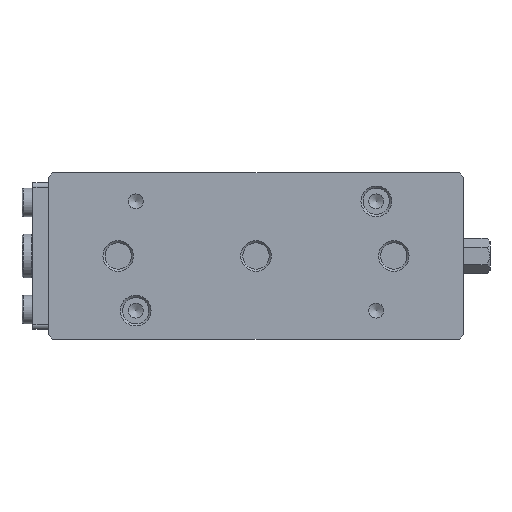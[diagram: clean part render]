
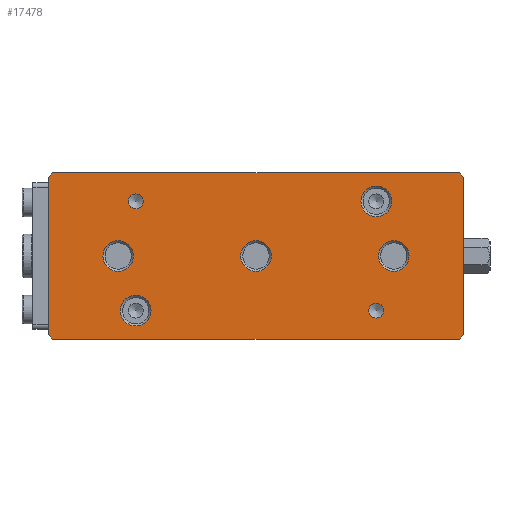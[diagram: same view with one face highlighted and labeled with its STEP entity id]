
A CAD part, front view. The second image highlights one B-rep face of the part: STEP entity #17478.
In plain terms, the highlighted planar face has unit normal (0, -1, 0).
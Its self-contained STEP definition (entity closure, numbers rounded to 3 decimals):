
#171 = EDGE_LOOP ( 'NONE', ( #35013 ) ) ;
#951 = DIRECTION ( 'NONE',  ( 0., -1., 0. ) ) ;
#1692 = VERTEX_POINT ( 'NONE', #37110 ) ;
#1729 = CARTESIAN_POINT ( 'NONE',  ( -63., -56., 0. ) ) ;
#2089 = CARTESIAN_POINT ( 'NONE',  ( 55., -56., -25. ) ) ;
#2680 = FACE_BOUND ( 'NONE', #41619, .T. ) ;
#3194 = CIRCLE ( 'NONE', #33859, 7. ) ;
#3421 = EDGE_LOOP ( 'NONE', ( #22845 ) ) ;
#5680 = LINE ( 'NONE', #46096, #6486 ) ;
#5726 = CARTESIAN_POINT ( 'NONE',  ( -95., -56., -36. ) ) ;
#6486 = VECTOR ( 'NONE', #11966, 1000. ) ;
#6587 = EDGE_CURVE ( 'NONE', #56308, #56308, #22540, .T. ) ;
#7656 = CIRCLE ( 'NONE', #23546, 7. ) ;
#9201 = AXIS2_PLACEMENT_3D ( 'NONE', #46317, #951, #36038 ) ;
#9765 = CARTESIAN_POINT ( 'NONE',  ( 95., -56., 36. ) ) ;
#9805 = DIRECTION ( 'NONE',  ( 0., 0., 1. ) ) ;
#10947 = CARTESIAN_POINT ( 'NONE',  ( 0., -56., 7. ) ) ;
#11937 = VERTEX_POINT ( 'NONE', #56647 ) ;
#11966 = DIRECTION ( 'NONE',  ( 0., 0., -1. ) ) ;
#12442 = EDGE_CURVE ( 'NONE', #53111, #42980, #53365, .T. ) ;
#12942 = DIRECTION ( 'NONE',  ( 0., 1., 0. ) ) ;
#13299 = DIRECTION ( 'NONE',  ( 0.707, 0., -0.707 ) ) ;
#13544 = ORIENTED_EDGE ( 'NONE', *, *, #49935, .T. ) ;
#14845 = ORIENTED_EDGE ( 'NONE', *, *, #33848, .F. ) ;
#15255 = EDGE_CURVE ( 'NONE', #30479, #30479, #33485, .T. ) ;
#15980 = EDGE_LOOP ( 'NONE', ( #13544 ) ) ;
#16726 = CARTESIAN_POINT ( 'NONE',  ( 95., -56., -38. ) ) ;
#16789 = LINE ( 'NONE', #27051, #37728 ) ;
#17185 = DIRECTION ( 'NONE',  ( 0., 0., 1. ) ) ;
#17244 = CARTESIAN_POINT ( 'NONE',  ( 63., -56., 7. ) ) ;
#17478 = ADVANCED_FACE ( 'NONE', ( #45285, #48045, #63277, #44058, #65462, #2680, #58305, #20090 ), #28805, .F. ) ;
#18283 = LINE ( 'NONE', #29513, #19183 ) ;
#18458 = DIRECTION ( 'NONE',  ( 0., 1., 0. ) ) ;
#19183 = VECTOR ( 'NONE', #38482, 1000. ) ;
#20090 = FACE_OUTER_BOUND ( 'NONE', #43711, .T. ) ;
#20212 = CIRCLE ( 'NONE', #35026, 7. ) ;
#21071 = EDGE_CURVE ( 'NONE', #49178, #54367, #31395, .T. ) ;
#21447 = CARTESIAN_POINT ( 'NONE',  ( 0., -56., 0. ) ) ;
#22288 = DIRECTION ( 'NONE',  ( 0., -1., 0. ) ) ;
#22540 = CIRCLE ( 'NONE', #52152, 7. ) ;
#22845 = ORIENTED_EDGE ( 'NONE', *, *, #38209, .T. ) ;
#22980 = ORIENTED_EDGE ( 'NONE', *, *, #6587, .T. ) ;
#23286 = VERTEX_POINT ( 'NONE', #9765 ) ;
#23406 = EDGE_CURVE ( 'NONE', #49178, #42980, #45859, .T. ) ;
#23546 = AXIS2_PLACEMENT_3D ( 'NONE', #28393, #18458, #17185 ) ;
#23611 = ORIENTED_EDGE ( 'NONE', *, *, #12442, .T. ) ;
#24517 = DIRECTION ( 'NONE',  ( 0., 0., 1. ) ) ;
#24816 = VECTOR ( 'NONE', #34869, 1000. ) ;
#26558 = EDGE_CURVE ( 'NONE', #62162, #53111, #16789, .T. ) ;
#26745 = CARTESIAN_POINT ( 'NONE',  ( -95., -56., 36. ) ) ;
#26778 = CARTESIAN_POINT ( 'NONE',  ( 95., -56., -36. ) ) ;
#27051 = CARTESIAN_POINT ( 'NONE',  ( -95., -56., 38. ) ) ;
#28224 = DIRECTION ( 'NONE',  ( 0., 0., -1. ) ) ;
#28393 = CARTESIAN_POINT ( 'NONE',  ( 63., -56., 0. ) ) ;
#28701 = EDGE_CURVE ( 'NONE', #1692, #1692, #20212, .T. ) ;
#28805 = PLANE ( 'NONE',  #55547 ) ;
#28926 = VECTOR ( 'NONE', #63166, 1000. ) ;
#29106 = CARTESIAN_POINT ( 'NONE',  ( -55., -56., -18. ) ) ;
#29513 = CARTESIAN_POINT ( 'NONE',  ( -93., -56., 38. ) ) ;
#30165 = ORIENTED_EDGE ( 'NONE', *, *, #23406, .F. ) ;
#30323 = VERTEX_POINT ( 'NONE', #63243 ) ;
#30479 = VERTEX_POINT ( 'NONE', #40764 ) ;
#30647 = DIRECTION ( 'NONE',  ( 0., 1., 0. ) ) ;
#31395 = LINE ( 'NONE', #26778, #28926 ) ;
#32356 = CARTESIAN_POINT ( 'NONE',  ( -93., -56., 38. ) ) ;
#32650 = CARTESIAN_POINT ( 'NONE',  ( 93., -56., 38. ) ) ;
#33485 = CIRCLE ( 'NONE', #9201, 3.4 ) ;
#33848 = EDGE_CURVE ( 'NONE', #11937, #11937, #46637, .T. ) ;
#33859 = AXIS2_PLACEMENT_3D ( 'NONE', #49356, #44068, #24517 ) ;
#34768 = EDGE_CURVE ( 'NONE', #23286, #54367, #5680, .T. ) ;
#34869 = DIRECTION ( 'NONE',  ( -0.707, 0., 0.707 ) ) ;
#34996 = LINE ( 'NONE', #36568, #35022 ) ;
#35013 = ORIENTED_EDGE ( 'NONE', *, *, #15255, .F. ) ;
#35022 = VECTOR ( 'NONE', #36236, 1000. ) ;
#35026 = AXIS2_PLACEMENT_3D ( 'NONE', #1729, #12942, #62953 ) ;
#35320 = EDGE_CURVE ( 'NONE', #62221, #64944, #34996, .T. ) ;
#35327 = DIRECTION ( 'NONE',  ( 0., 0., 1. ) ) ;
#35957 = CARTESIAN_POINT ( 'NONE',  ( 55., -56., 25. ) ) ;
#36038 = DIRECTION ( 'NONE',  ( 0., 0., -1. ) ) ;
#36236 = DIRECTION ( 'NONE',  ( -1., 0., 0. ) ) ;
#36510 = EDGE_CURVE ( 'NONE', #64944, #62162, #18283, .T. ) ;
#36568 = CARTESIAN_POINT ( 'NONE',  ( 95., -56., 38. ) ) ;
#36689 = DIRECTION ( 'NONE',  ( 0., 1., 0. ) ) ;
#36790 = VERTEX_POINT ( 'NONE', #17244 ) ;
#37110 = CARTESIAN_POINT ( 'NONE',  ( -63., -56., 7. ) ) ;
#37728 = VECTOR ( 'NONE', #41960, 1000. ) ;
#38209 = EDGE_CURVE ( 'NONE', #36790, #36790, #7656, .T. ) ;
#38397 = VERTEX_POINT ( 'NONE', #29106 ) ;
#38482 = DIRECTION ( 'NONE',  ( -0.707, 0., -0.707 ) ) ;
#39078 = CARTESIAN_POINT ( 'NONE',  ( 95., -56., 38. ) ) ;
#39204 = CIRCLE ( 'NONE', #51924, 7. ) ;
#39932 = EDGE_CURVE ( 'NONE', #23286, #62221, #61363, .T. ) ;
#40200 = ORIENTED_EDGE ( 'NONE', *, *, #28701, .T. ) ;
#40764 = CARTESIAN_POINT ( 'NONE',  ( -55., -56., 21.6 ) ) ;
#41202 = CARTESIAN_POINT ( 'NONE',  ( 95., -56., -36. ) ) ;
#41619 = EDGE_LOOP ( 'NONE', ( #14845 ) ) ;
#41960 = DIRECTION ( 'NONE',  ( 0., 0., -1. ) ) ;
#42980 = VERTEX_POINT ( 'NONE', #55596 ) ;
#43444 = AXIS2_PLACEMENT_3D ( 'NONE', #2089, #22288, #28224 ) ;
#43711 = EDGE_LOOP ( 'NONE', ( #64522, #50520, #59584, #54994, #50003, #23611, #30165, #46059 ) ) ;
#44058 = FACE_BOUND ( 'NONE', #52330, .T. ) ;
#44068 = DIRECTION ( 'NONE',  ( 0., 1., 0. ) ) ;
#45285 = FACE_BOUND ( 'NONE', #15980, .T. ) ;
#45800 = CARTESIAN_POINT ( 'NONE',  ( 95., -56., 36. ) ) ;
#45859 = LINE ( 'NONE', #16726, #62897 ) ;
#46059 = ORIENTED_EDGE ( 'NONE', *, *, #21071, .T. ) ;
#46096 = CARTESIAN_POINT ( 'NONE',  ( 95., -56., 38. ) ) ;
#46317 = CARTESIAN_POINT ( 'NONE',  ( -55., -56., 25. ) ) ;
#46637 = CIRCLE ( 'NONE', #43444, 3.4 ) ;
#46956 = EDGE_LOOP ( 'NONE', ( #22980 ) ) ;
#47287 = CARTESIAN_POINT ( 'NONE',  ( 93., -56., -38. ) ) ;
#47905 = DIRECTION ( 'NONE',  ( 0., 0., 1. ) ) ;
#48045 = FACE_BOUND ( 'NONE', #3421, .T. ) ;
#48150 = EDGE_CURVE ( 'NONE', #38397, #38397, #3194, .T. ) ;
#48684 = DIRECTION ( 'NONE',  ( 0., 1., 0. ) ) ;
#49178 = VERTEX_POINT ( 'NONE', #47287 ) ;
#49356 = CARTESIAN_POINT ( 'NONE',  ( -55., -56., -25. ) ) ;
#49935 = EDGE_CURVE ( 'NONE', #30323, #30323, #39204, .T. ) ;
#50003 = ORIENTED_EDGE ( 'NONE', *, *, #26558, .T. ) ;
#50520 = ORIENTED_EDGE ( 'NONE', *, *, #39932, .T. ) ;
#51504 = DIRECTION ( 'NONE',  ( -1., 0., 0. ) ) ;
#51924 = AXIS2_PLACEMENT_3D ( 'NONE', #35957, #30647, #9805 ) ;
#52152 = AXIS2_PLACEMENT_3D ( 'NONE', #21447, #36689, #47905 ) ;
#52330 = EDGE_LOOP ( 'NONE', ( #40200 ) ) ;
#53086 = EDGE_LOOP ( 'NONE', ( #62704 ) ) ;
#53111 = VERTEX_POINT ( 'NONE', #5726 ) ;
#53365 = LINE ( 'NONE', #53690, #56809 ) ;
#53690 = CARTESIAN_POINT ( 'NONE',  ( -93., -56., -38. ) ) ;
#54367 = VERTEX_POINT ( 'NONE', #41202 ) ;
#54994 = ORIENTED_EDGE ( 'NONE', *, *, #36510, .T. ) ;
#55547 = AXIS2_PLACEMENT_3D ( 'NONE', #39078, #48684, #35327 ) ;
#55596 = CARTESIAN_POINT ( 'NONE',  ( -93., -56., -38. ) ) ;
#56308 = VERTEX_POINT ( 'NONE', #10947 ) ;
#56647 = CARTESIAN_POINT ( 'NONE',  ( 55., -56., -28.4 ) ) ;
#56809 = VECTOR ( 'NONE', #13299, 1000. ) ;
#58305 = FACE_BOUND ( 'NONE', #171, .T. ) ;
#59584 = ORIENTED_EDGE ( 'NONE', *, *, #35320, .T. ) ;
#61363 = LINE ( 'NONE', #45800, #24816 ) ;
#62162 = VERTEX_POINT ( 'NONE', #26745 ) ;
#62221 = VERTEX_POINT ( 'NONE', #32650 ) ;
#62704 = ORIENTED_EDGE ( 'NONE', *, *, #48150, .T. ) ;
#62897 = VECTOR ( 'NONE', #51504, 1000. ) ;
#62953 = DIRECTION ( 'NONE',  ( 0., 0., 1. ) ) ;
#63166 = DIRECTION ( 'NONE',  ( 0.707, 0., 0.707 ) ) ;
#63243 = CARTESIAN_POINT ( 'NONE',  ( 55., -56., 32. ) ) ;
#63277 = FACE_BOUND ( 'NONE', #46956, .T. ) ;
#64522 = ORIENTED_EDGE ( 'NONE', *, *, #34768, .F. ) ;
#64944 = VERTEX_POINT ( 'NONE', #32356 ) ;
#65462 = FACE_BOUND ( 'NONE', #53086, .T. ) ;
